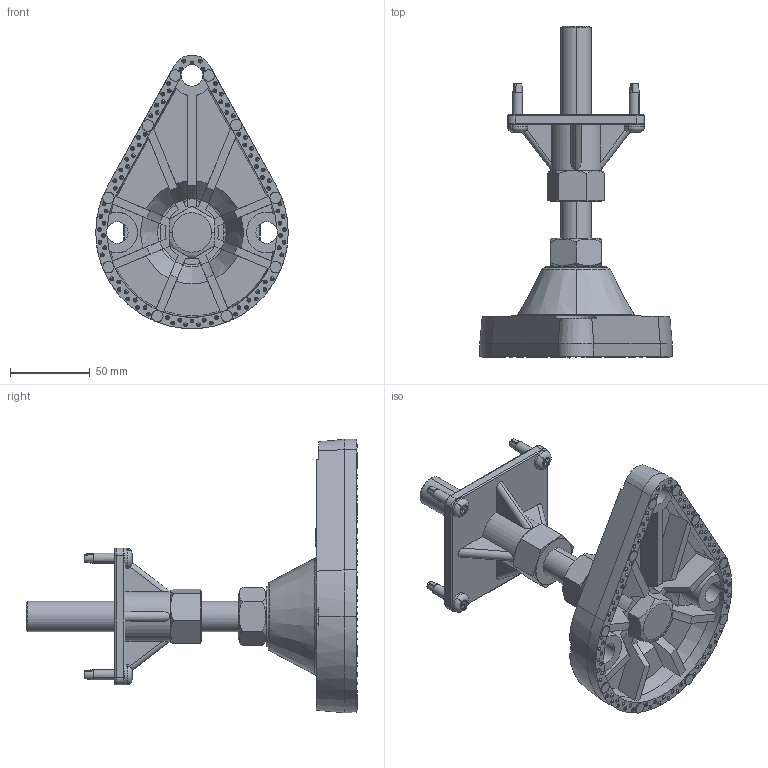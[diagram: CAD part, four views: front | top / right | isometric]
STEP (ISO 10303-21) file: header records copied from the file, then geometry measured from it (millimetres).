
FILE_DESCRIPTION (( 'STEP AP214' ), '1' );
FILE_NAME ('H0201111.STEP', '2014-02-11T15:58:07', ( 'Eric_Werenskjold' ), ( '' ), 'SwSTEP 2.0', 'SolidWorks 2014', '' );
FILE_SCHEMA (( 'AUTOMOTIVE_DESIGN' ));
Length unit declared in the file: inch
Products named in the file (5): 25C100PTFZ; Heavy Hex Nut_Derived Ansi Inch Standard_HHNUT 0.7500-16-B-N; H0200621; H0200821; H0201111
Assembly tree (7 placements, depth 2):
  H0201111
    H0200821
    H0200621
    Heavy Hex Nut_Derived Ansi Inch Standard_HHNUT 0.7500-16-B-N
    25C100PTFZ  x4
Bounding box: 120.65 x 208.05 x 171.41 mm (x, y, z)
Volume: 383861.4 mm3; surface area: 123745.5 mm2
Topology: 12 solids, 12 shells, 1229 faces, 3203 edges, 2099 vertices
Faces by surface type: plane 637, cylinder 289, cone 265, bspline 22, torus 16
Entity records: 47086 total; most frequent: CARTESIAN_POINT 7994, DIRECTION 5780, ORIENTED_EDGE 5674, EDGE_CURVE 2837, AXIS2_PLACEMENT_3D 2068, VERTEX_POINT 1862, LINE 1644, VECTOR 1644
